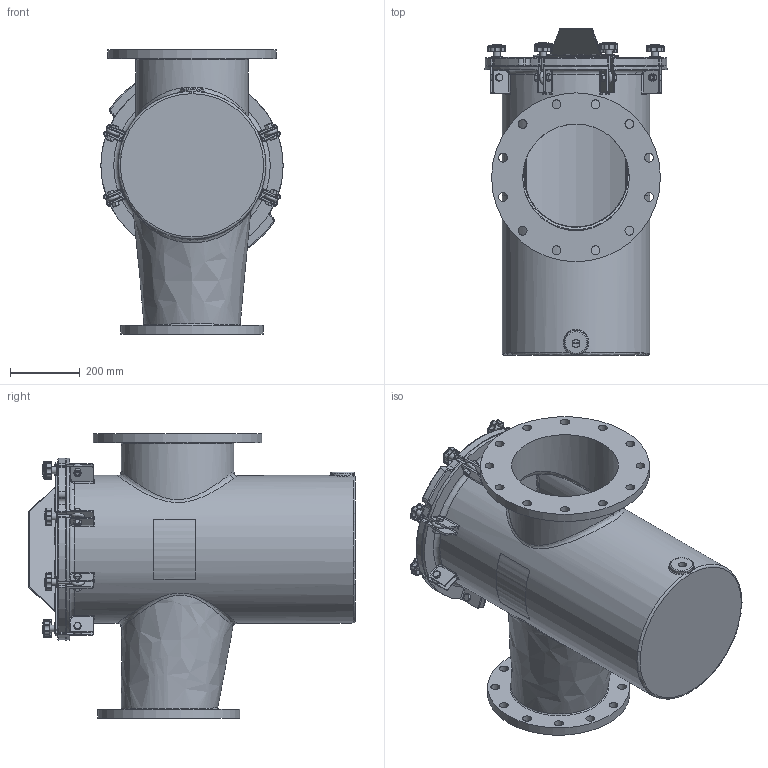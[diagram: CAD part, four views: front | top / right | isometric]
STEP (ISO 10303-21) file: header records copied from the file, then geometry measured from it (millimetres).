
FILE_DESCRIPTION(/* description */ ('STRAINER BODY'),/* implementation_level */ '2;1');
FILE_NAME(/* name */ '\\chntshnas1\IP_PUMPS\NeptuneBenson\Project Execution\WIP\Ready for delivery - Do not Disturb -Updated with metric Flange\Workspace\FG Reducing Strainer\150NBFG20ER1.stp',/* time_stamp */ '2016-10-19T11:57:26+05:00',/* author */ ('20076253'),/* organization */ (''),/* preprocessor_version */ 'ST-DEVELOPER v16.1',/* originating_system */ 'Autodesk Inventor 2016',/* authorisation */ '');
FILE_SCHEMA (('AUTOMOTIVE_DESIGN { 1 0 10303 214 3 1 1 }'));
Length unit declared in the file: inch
Products named in the file (24): NBFG21EBODYR1; 150NBCVR20R2; 150NBGSK16R1; Perforated Basket 16in; Bride (Ring) 16in; Baffle 16in; Handle 16in; Bottom Strainer 16in; NBBSK10T316; BRACESTRCVR16_Welds; BRACE (BASE) FOR 16 BODY; BRACE (PROJ) FOR 16 BODY; Bumper; BRACESTRCVR16; Nut- 1_2  UNC; Bolt-1_2 x 1 1_2  UNC; EyeBolt; Washer; Knob M10; Securing Assembly For FG  with Brace; Securing Assembly For FG without Brace; Label for 16.625 inch (Right); Label for 16.625 inch (Left); Guardian FG Reducing H&L Strainer (Inch)
Assembly tree (39 placements, depth 3):
  Guardian FG Reducing H&L Strainer (Inch)
    NBFG21EBODYR1
    150NBCVR20R2
    150NBGSK16R1
    NBBSK10T316
      Perforated Basket 16in
      Bride (Ring) 16in
      Baffle 16in
      Handle 16in
      Bottom Strainer 16in
    BRACESTRCVR16
      BRACESTRCVR16_Welds
      BRACE (BASE) FOR 16 BODY
      BRACE (PROJ) FOR 16 BODY
      Bumper  x6
    Securing Assembly For FG  with Brace  x2
      Nut- 1_2  UNC
      Bolt-1_2 x 1 1_2  UNC
      EyeBolt
      Washer
      Knob M10
    Securing Assembly For FG without Brace  x6
      Nut- 1_2  UNC
      Bolt-1_2 x 1 1_2  UNC
      EyeBolt
      Washer
      Knob M10
    Label for 16.625 inch (Right)
    Label for 16.625 inch (Left)
Bounding box: 520.7 x 933.45 x 812.8 mm (x, y, z)
Volume: 24757685.3 mm3; surface area: 6016003.3 mm2
Topology: 66 solids, 66 shells, 1808 faces, 4125 edges, 2438 vertices
Faces by surface type: cylinder 662, plane 500, cone 184, torus 166, sphere 158, bspline 138
Full cylindrical faces by diameter (mm): 3.175 x11, 6.35 x2, 8.382 x8, 9.525 x16, 10.592 x8, 12.7 x8, 15.875 x16, 19 x16, 19.05 x8, 22.809 x1, 25.4 x24, 31.75 x8, 68.263 x1, 295.275 x2, 298.45 x1, 300.99 x1, 304.8 x1, 320.675 x1, 406.4 x3, 409.575 x1, 415.925 x1, 422.275 x1, 457.2 x1, 463.55 x1, 482.6 x1
Entity records: 34418 total; most frequent: CARTESIAN_POINT 11507, DIRECTION 4739, ORIENTED_EDGE 4316, EDGE_CURVE 2158, AXIS2_PLACEMENT_3D 1946, VERTEX_POINT 1355, EDGE_LOOP 1183, ADVANCED_FACE 958
